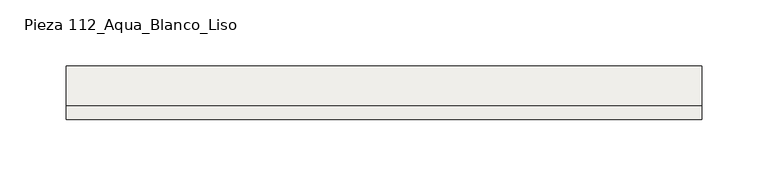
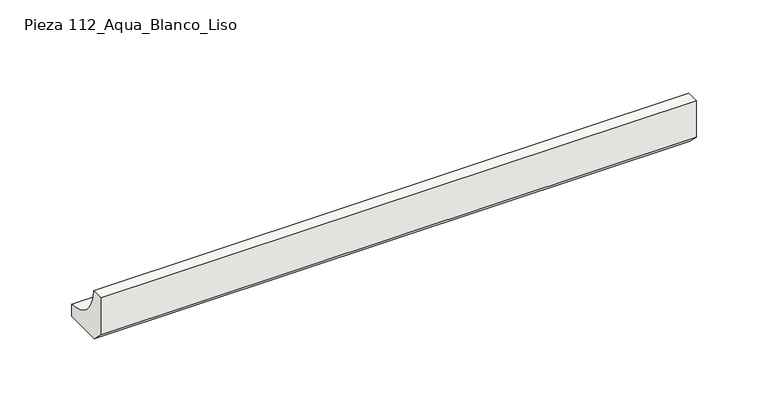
"""IFC4 building model written with IfcOpenShell, lengths in millimetres: slab geometry, ROSA GRES_112 : Pieza 112_Aqua_Blanco_Liso."""

from ifc_helpers import new_model, si_unit, point, frame, frame_2d, origin, place, context, project, spatial, polyline, circle_curve, trimmed, segment, composite_curve, outline, extrude, source, transform, mapped, element, save


def pieza_112_aqua_blanco_liso_d517fc05(model_context):
    return source(origin(), model_context, "Body", "SweptSolid", [
        extrude(outline(composite_curve([segment(polyline([(-9.9734114, 8.7114978), (-9.9734114, 40.0), (0.0, 40.0)]), True, "CONTINUOUS"), segment(trimmed(circle_curve(frame_2d((30.0221432, 39.9955547)), 30.0221435), [point((0.0, 40.0))], [point((30.0265886, 9.9734114))], True, "CARTESIAN"), True, "CONTINUOUS"), segment(polyline([(30.0265886, 9.9734114), (30.0265886, 0.0), (-1.2619137, 0.0), (-9.9734114, 8.7114978)]), True, "CONTINUOUS")], self_intersect=False)), frame((0.0, 0.0, 0.0), z_axis=(1.0, 0.0, 0.0), x_axis=(0.0, 1.0, 0.0)), (0.0, 0.0, 1.0), 477.9565272),
    ])


if __name__ == "__main__":
    model = new_model("IFC4")
    model_context = context("Model", 3, world=origin())
    ifc_project = project(units=[si_unit("LENGTHUNIT", "METRE", prefix="MILLI")], contexts=[model_context])
    site = spatial("IfcSite", under=ifc_project)
    building = spatial("IfcBuilding", under=site)
    placement = place(None, origin())
    pieza_112_aqua_blanco_liso_shape = pieza_112_aqua_blanco_liso_d517fc05(model_context)
    element("IfcSlab", 1, ObjectType="ROSA GRES_112 : Pieza 112_Aqua_Blanco_Liso", at=placement, inside=building, context=model_context, shape_type="MappedRepresentation", body=[
        mapped(pieza_112_aqua_blanco_liso_shape, transform((0.0, 0.0, 0.0), x_axis=(1.0, 0.0, 0.0), y_axis=(0.0, 1.0, 0.0), z_axis=(0.0, 0.0, 1.0))),
    ])
    save(model, "model.ifc")
